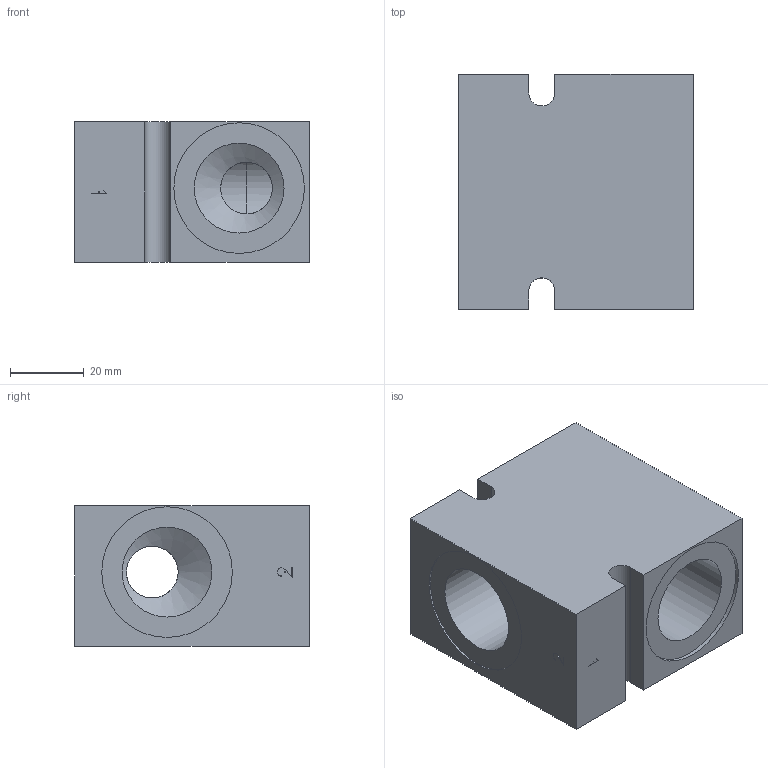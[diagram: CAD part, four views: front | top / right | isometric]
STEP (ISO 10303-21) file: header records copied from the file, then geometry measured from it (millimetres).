
FILE_DESCRIPTION( ( 'Unknown' ), '1' );
FILE_NAME( 'G:/Graphic Design/Graphic Design 2/Data Sheets/Delta Bodies/3_STP/B-DDED2.stp', 'Unknown', ( 'Unknown' ), ( 'Unknown' ), 'PSStep 17.0.49', 'Unknown', ' ' );
FILE_SCHEMA( ( 'AUTOMOTIVE_DESIGN { 1 0 10303 214 1 1 1 1 }' ) );
Length unit declared in the file: millimetre
Products named in the file (1): 1
Bounding box: 63.5 x 63.5 x 38.1 mm (x, y, z)
Volume: 113574.8 mm3; surface area: 24060.3 mm2
Topology: 1 solids, 1 shells, 80 faces, 212 edges, 140 vertices
Faces by surface type: plane 56, cylinder 17, cone 7
Full cylindrical faces by diameter (mm): 0.1 x1, 0.2 x1, 14 x2, 15.9 x1, 17.043 x1, 20.262 x2, 24.3 x4, 30.175 x1, 35.33 x2
Entity records: 3058 total; most frequent: CARTESIAN_POINT 708, ORIENTED_EDGE 354, DIRECTION 291, EDGE_CURVE 177, VERTEX_POINT 127, EDGE_LOOP 112, AXIS2_PLACEMENT_3D 111, FACE_OUTER_BOUND 95
